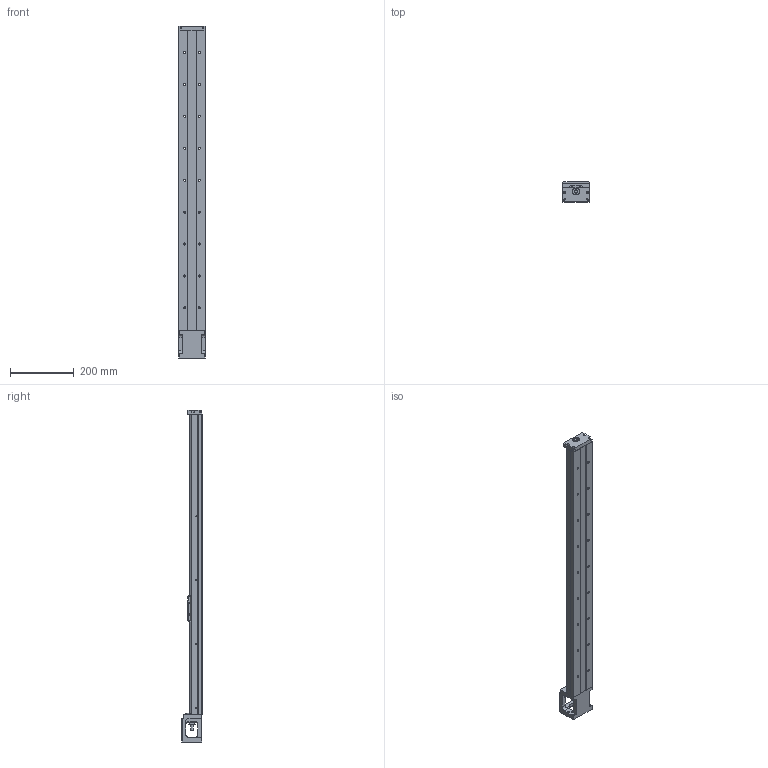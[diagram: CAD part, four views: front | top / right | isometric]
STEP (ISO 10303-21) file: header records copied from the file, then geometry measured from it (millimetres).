
FILE_DESCRIPTION(/* description */ (''),/* implementation_level */ '2;1');
FILE_NAME(/* name */ '46S-940low.stp',/* time_stamp */ '2018-02-12T11:44:19+08:00',/* author */ (''),/* organization */ (''),/* preprocessor_version */ 'ST-DEVELOPER v11',/* originating_system */ 'SIEMENS UGS NX 6.0',/* authorisation */ '');
FILE_SCHEMA (('AUTOMOTIVE_DESIGN { 1 0 10303 214 1 1 1 1 }'));
Length unit declared in the file: millimetre
Products named in the file (1): 3.069
Bounding box: 86 x 64 x 1040 mm (x, y, z)
Volume: 1956443 mm3; surface area: 405294.9 mm2
Topology: 5 solids, 16 shells, 648 faces, 1726 edges, 1137 vertices
Faces by surface type: plane 286, cylinder 242, cone 59, bspline 53, torus 8
Full cylindrical faces by diameter (mm): 2 x2, 2.11 x2, 2.15 x8, 2.42 x6, 3 x4, 3.2 x4, 3.3 x6, 3.4 x4, 4 x2, 4.2 x4, 4.5 x8, 5 x6, 6 x8, 6.35 x2, 6.6 x18, 6.7 x2, 8 x1, 8.7 x4, 9.6 x1, 10 x3, 11 x18, 12 x1, 14.95 x2, 15 x1, 16 x2, 22 x3, 27.5 x1, 44 x1, 50 x1
Entity records: 32281 total; most frequent: CARTESIAN_POINT 13036, ORIENTED_EDGE 2948, DIRECTION 2798, EDGE_CURVE 1474, VERTEX_POINT 1061, AXIS2_PLACEMENT_3D 1056, EDGE_LOOP 923, LINE 686
